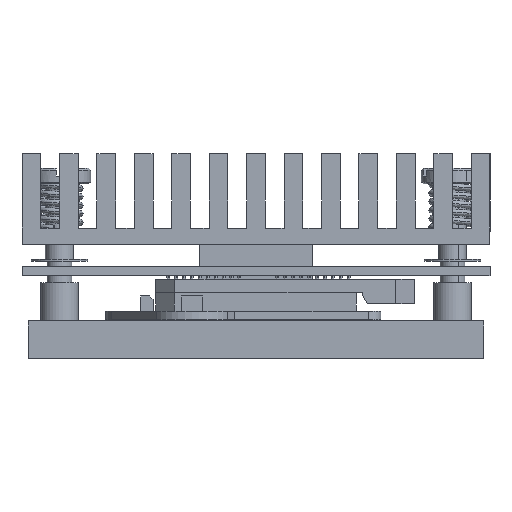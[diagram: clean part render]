
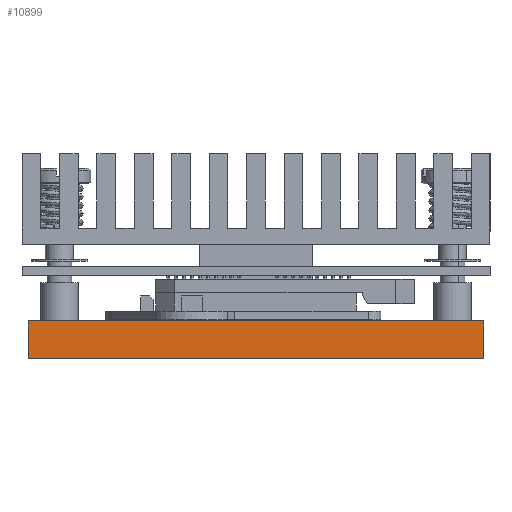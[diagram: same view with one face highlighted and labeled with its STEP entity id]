
A CAD part, front view. The second image highlights one B-rep face of the part: STEP entity #10899.
In plain terms, the highlighted planar face has unit normal (0, -1, 0).
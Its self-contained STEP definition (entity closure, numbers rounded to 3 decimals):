
#2047 = VECTOR ( 'NONE', #14878, 1000. ) ;
#5257 = VECTOR ( 'NONE', #74534, 1000. ) ;
#10899 = ADVANCED_FACE ( 'NONE', ( #90657 ), #61102, .F. ) ;
#12682 = DIRECTION ( 'NONE',  ( 0., 1., 0. ) ) ;
#14878 = DIRECTION ( 'NONE',  ( 0., 0., -1. ) ) ;
#15866 = VERTEX_POINT ( 'NONE', #88017 ) ;
#18277 = CARTESIAN_POINT ( 'NONE',  ( -36.5, -22.5, -3. ) ) ;
#18351 = DIRECTION ( 'NONE',  ( 0., 0., 1. ) ) ;
#21411 = ORIENTED_EDGE ( 'NONE', *, *, #30682, .T. ) ;
#22512 = CARTESIAN_POINT ( 'NONE',  ( 36.5, -22.5, -3. ) ) ;
#24231 = VECTOR ( 'NONE', #82223, 1000. ) ;
#25404 = LINE ( 'NONE', #33377, #24231 ) ;
#27587 = CARTESIAN_POINT ( 'NONE',  ( -36.5, -22.5, 3. ) ) ;
#30682 = EDGE_CURVE ( 'NONE', #38701, #65252, #25404, .T. ) ;
#31308 = DIRECTION ( 'NONE',  ( 1., 0., 0. ) ) ;
#33377 = CARTESIAN_POINT ( 'NONE',  ( 0., -22.5, -3. ) ) ;
#33397 = CARTESIAN_POINT ( 'NONE',  ( -36.5, -22.5, 3. ) ) ;
#37183 = EDGE_CURVE ( 'NONE', #64243, #15866, #37910, .T. ) ;
#37910 = LINE ( 'NONE', #60424, #91856 ) ;
#38386 = LINE ( 'NONE', #78937, #5257 ) ;
#38701 = VERTEX_POINT ( 'NONE', #18277 ) ;
#40226 = EDGE_CURVE ( 'NONE', #64243, #38701, #38386, .T. ) ;
#56978 = ORIENTED_EDGE ( 'NONE', *, *, #37183, .F. ) ;
#60424 = CARTESIAN_POINT ( 'NONE',  ( -36.5, -22.5, 3. ) ) ;
#61102 = PLANE ( 'NONE',  #63006 ) ;
#63006 = AXIS2_PLACEMENT_3D ( 'NONE', #33397, #12682, #18351 ) ;
#64243 = VERTEX_POINT ( 'NONE', #27587 ) ;
#64287 = EDGE_CURVE ( 'NONE', #15866, #65252, #80132, .T. ) ;
#64655 = CARTESIAN_POINT ( 'NONE',  ( 36.5, -22.5, 3. ) ) ;
#65252 = VERTEX_POINT ( 'NONE', #22512 ) ;
#70494 = ORIENTED_EDGE ( 'NONE', *, *, #40226, .T. ) ;
#74534 = DIRECTION ( 'NONE',  ( 0., 0., -1. ) ) ;
#74826 = EDGE_LOOP ( 'NONE', ( #70494, #21411, #92245, #56978 ) ) ;
#78937 = CARTESIAN_POINT ( 'NONE',  ( -36.5, -22.5, 3. ) ) ;
#80132 = LINE ( 'NONE', #64655, #2047 ) ;
#82223 = DIRECTION ( 'NONE',  ( 1., 0., 0. ) ) ;
#88017 = CARTESIAN_POINT ( 'NONE',  ( 36.5, -22.5, 3. ) ) ;
#90657 = FACE_OUTER_BOUND ( 'NONE', #74826, .T. ) ;
#91856 = VECTOR ( 'NONE', #31308, 1000. ) ;
#92245 = ORIENTED_EDGE ( 'NONE', *, *, #64287, .F. ) ;
